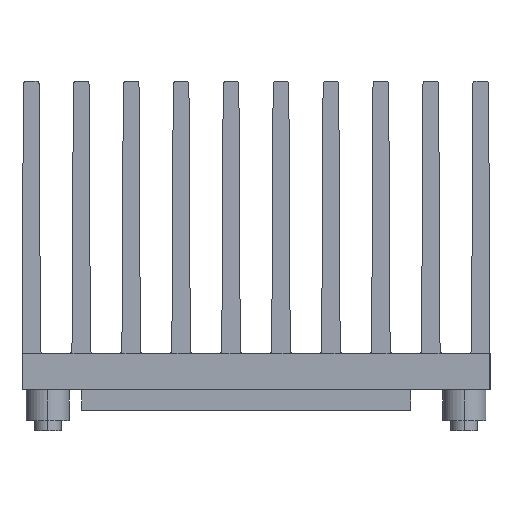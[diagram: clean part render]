
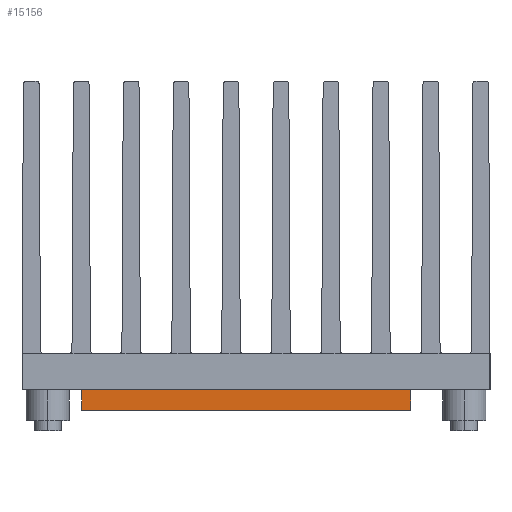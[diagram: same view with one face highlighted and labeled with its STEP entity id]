
A CAD part, left-side view. The second image highlights one B-rep face of the part: STEP entity #15156.
In plain terms, the highlighted planar face has unit normal (-1, 0, 0).
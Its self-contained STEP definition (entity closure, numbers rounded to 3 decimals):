
#308 = ORIENTED_EDGE ( 'NONE', *, *, #2706, .T. ) ;
#2706 = EDGE_CURVE ( 'NONE', #18340, #27800, #6111, .T. ) ;
#2807 = EDGE_CURVE ( 'NONE', #13533, #27800, #9748, .T. ) ;
#2882 = CARTESIAN_POINT ( 'NONE',  ( -9.74, -15.05, -2. ) ) ;
#2907 = LINE ( 'NONE', #27843, #29019 ) ;
#3063 = LINE ( 'NONE', #5778, #6329 ) ;
#4132 = VERTEX_POINT ( 'NONE', #2882 ) ;
#5444 = ORIENTED_EDGE ( 'NONE', *, *, #8403, .T. ) ;
#5707 = VECTOR ( 'NONE', #27851, 1000. ) ;
#5778 = CARTESIAN_POINT ( 'NONE',  ( -9.74, -15.05, -2. ) ) ;
#6111 = LINE ( 'NONE', #18038, #5707 ) ;
#6329 = VECTOR ( 'NONE', #20473, 1000. ) ;
#8403 = EDGE_CURVE ( 'NONE', #4132, #18340, #2907, .T. ) ;
#8589 = DIRECTION ( 'NONE',  ( 0., 0., -1. ) ) ;
#9748 = LINE ( 'NONE', #31814, #9816 ) ;
#9816 = VECTOR ( 'NONE', #29397, 1000. ) ;
#13533 = VERTEX_POINT ( 'NONE', #28501 ) ;
#14553 = EDGE_LOOP ( 'NONE', ( #308, #22198, #16957, #5444 ) ) ;
#15156 = ADVANCED_FACE ( 'NONE', ( #18087 ), #20524, .F. ) ;
#16957 = ORIENTED_EDGE ( 'NONE', *, *, #22419, .F. ) ;
#18038 = CARTESIAN_POINT ( 'NONE',  ( -9.74, -15.05, 0. ) ) ;
#18087 = FACE_OUTER_BOUND ( 'NONE', #14553, .T. ) ;
#18340 = VERTEX_POINT ( 'NONE', #25432 ) ;
#18884 = AXIS2_PLACEMENT_3D ( 'NONE', #30461, #30635, #8589 ) ;
#20473 = DIRECTION ( 'NONE',  ( 0., 1., 0. ) ) ;
#20524 = PLANE ( 'NONE',  #18884 ) ;
#22198 = ORIENTED_EDGE ( 'NONE', *, *, #2807, .F. ) ;
#22419 = EDGE_CURVE ( 'NONE', #4132, #13533, #3063, .T. ) ;
#22561 = DIRECTION ( 'NONE',  ( 0., 0., 1. ) ) ;
#25432 = CARTESIAN_POINT ( 'NONE',  ( -9.74, -15.05, 0. ) ) ;
#26274 = CARTESIAN_POINT ( 'NONE',  ( -9.74, 16.95, 0. ) ) ;
#27800 = VERTEX_POINT ( 'NONE', #26274 ) ;
#27843 = CARTESIAN_POINT ( 'NONE',  ( -9.74, -15.05, -2. ) ) ;
#27851 = DIRECTION ( 'NONE',  ( 0., 1., 0. ) ) ;
#28501 = CARTESIAN_POINT ( 'NONE',  ( -9.74, 16.95, -2. ) ) ;
#29019 = VECTOR ( 'NONE', #22561, 1000. ) ;
#29397 = DIRECTION ( 'NONE',  ( 0., 0., 1. ) ) ;
#30461 = CARTESIAN_POINT ( 'NONE',  ( -9.74, -15.05, -2. ) ) ;
#30635 = DIRECTION ( 'NONE',  ( 1., 0., 0. ) ) ;
#31814 = CARTESIAN_POINT ( 'NONE',  ( -9.74, 16.95, -2. ) ) ;
